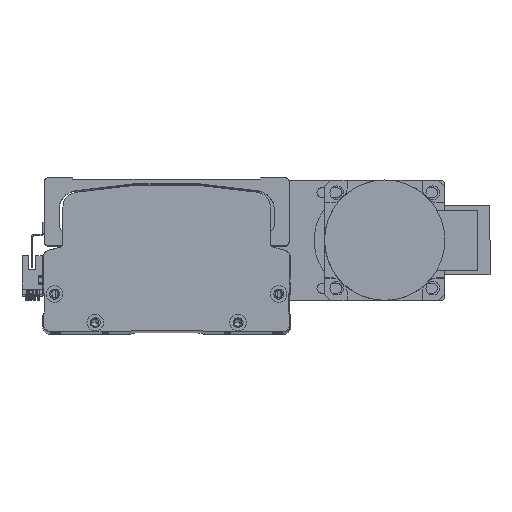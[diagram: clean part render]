
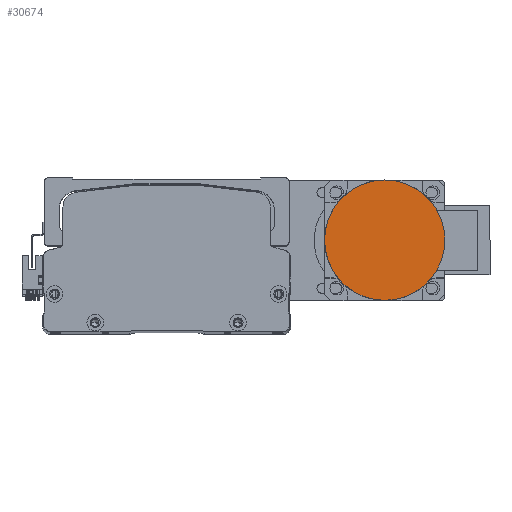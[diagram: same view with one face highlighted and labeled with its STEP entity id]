
A CAD part, top view. The second image highlights one B-rep face of the part: STEP entity #30674.
In plain terms, the highlighted planar face has unit normal (0, 0, 1) as drawn and (0, -1, 0) by its records, which use the part's own axes.
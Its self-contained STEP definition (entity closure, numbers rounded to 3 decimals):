
#3283 = CARTESIAN_POINT ( 'NONE',  ( 0., -27., 0. ) ) ;
#4979 = CARTESIAN_POINT ( 'NONE',  ( 0., -27., -40. ) ) ;
#5593 = ORIENTED_EDGE ( 'NONE', *, *, #17642, .T. ) ;
#6461 = VERTEX_POINT ( 'NONE', #45676 ) ;
#6767 = CARTESIAN_POINT ( 'NONE',  ( 0., -27., 0. ) ) ;
#8073 = DIRECTION ( 'NONE',  ( 0., 0., -1. ) ) ;
#8649 = EDGE_CURVE ( 'NONE', #43144, #6461, #13608, .T. ) ;
#11540 = DIRECTION ( 'NONE',  ( 0., 0., -1. ) ) ;
#13234 = CARTESIAN_POINT ( 'NONE',  ( 0., -27., 0. ) ) ;
#13608 = CIRCLE ( 'NONE', #33517, 40. ) ;
#17642 = EDGE_CURVE ( 'NONE', #6461, #43144, #50248, .T. ) ;
#18326 = AXIS2_PLACEMENT_3D ( 'NONE', #3283, #36532, #8073 ) ;
#22768 = PLANE ( 'NONE',  #32979 ) ;
#27542 = DIRECTION ( 'NONE',  ( 0., 0., 1. ) ) ;
#30674 = ADVANCED_FACE ( 'NONE', ( #52378 ), #22768, .F. ) ;
#32979 = AXIS2_PLACEMENT_3D ( 'NONE', #13234, #55888, #27542 ) ;
#33517 = AXIS2_PLACEMENT_3D ( 'NONE', #6767, #40031, #11540 ) ;
#36532 = DIRECTION ( 'NONE',  ( 0., -1., 0. ) ) ;
#37318 = ORIENTED_EDGE ( 'NONE', *, *, #8649, .T. ) ;
#40031 = DIRECTION ( 'NONE',  ( 0., -1., 0. ) ) ;
#43144 = VERTEX_POINT ( 'NONE', #4979 ) ;
#45676 = CARTESIAN_POINT ( 'NONE',  ( 0., -27., 40. ) ) ;
#50248 = CIRCLE ( 'NONE', #18326, 40. ) ;
#52378 = FACE_OUTER_BOUND ( 'NONE', #59180, .T. ) ;
#55888 = DIRECTION ( 'NONE',  ( 0., 1., 0. ) ) ;
#59180 = EDGE_LOOP ( 'NONE', ( #37318, #5593 ) ) ;
